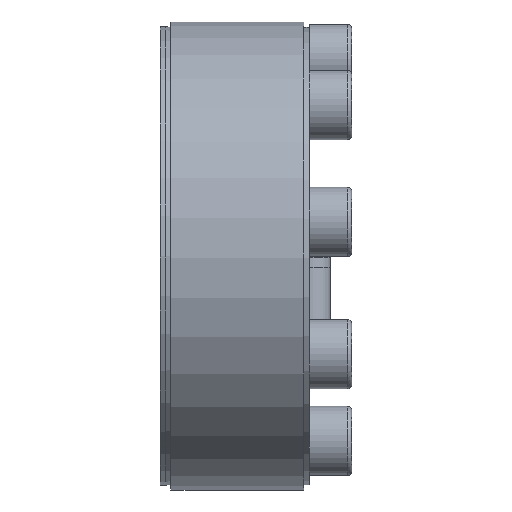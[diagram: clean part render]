
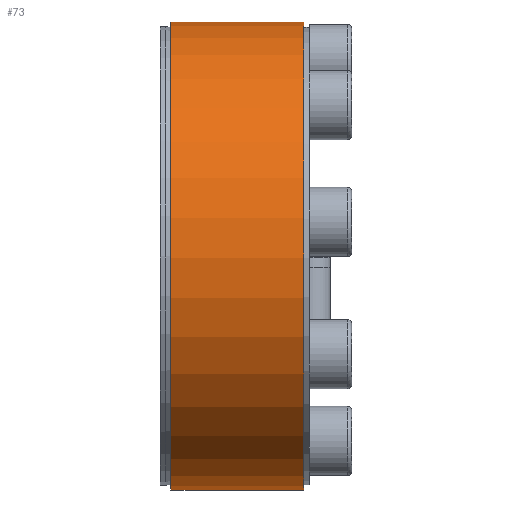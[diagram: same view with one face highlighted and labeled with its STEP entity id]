
A CAD part, left-side view. The second image highlights one B-rep face of the part: STEP entity #73.
In plain terms, the highlighted cylindrical face has radius 44 mm (diameter 88 mm), a partial arc.
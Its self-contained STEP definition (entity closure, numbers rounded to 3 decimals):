
#73 = ADVANCED_FACE( '', ( #164 ), #165, .T. );
#164 = FACE_OUTER_BOUND( '', #314, .T. );
#165 = CYLINDRICAL_SURFACE( '', #315, 44. );
#314 = EDGE_LOOP( '', ( #493, #494, #495, #496 ) );
#315 = AXIS2_PLACEMENT_3D( '', #497, #498, #499 );
#493 = ORIENTED_EDGE( '', *, *, #797, .F. );
#494 = ORIENTED_EDGE( '', *, *, #798, .T. );
#495 = ORIENTED_EDGE( '', *, *, #799, .T. );
#496 = ORIENTED_EDGE( '', *, *, #800, .F. );
#497 = CARTESIAN_POINT( '', ( 0., -60., 0. ) );
#498 = DIRECTION( '', ( 0., 1., 0. ) );
#499 = DIRECTION( '', ( 0., 0., -1. ) );
#797 = EDGE_CURVE( '', #956, #957, #958, .T. );
#798 = EDGE_CURVE( '', #956, #959, #960, .F. );
#799 = EDGE_CURVE( '', #959, #961, #962, .T. );
#800 = EDGE_CURVE( '', #957, #961, #963, .F. );
#956 = VERTEX_POINT( '', #1246 );
#957 = VERTEX_POINT( '', #1247 );
#958 = CIRCLE( '', #1248, 44. );
#959 = VERTEX_POINT( '', #1249 );
#960 = LINE( '', #1250, #1251 );
#961 = VERTEX_POINT( '', #1252 );
#962 = CIRCLE( '', #1253, 44. );
#963 = LINE( '', #1254, #1255 );
#1246 = CARTESIAN_POINT( '', ( 14.105, 1., 41.678 ) );
#1247 = CARTESIAN_POINT( '', ( 15.985, 1., 40.994 ) );
#1248 = AXIS2_PLACEMENT_3D( '', #1457, #1458, #1459 );
#1249 = CARTESIAN_POINT( '', ( 14.105, 26., 41.678 ) );
#1250 = CARTESIAN_POINT( '', ( 14.105, -60., 41.678 ) );
#1251 = VECTOR( '', #1460, 1000. );
#1252 = CARTESIAN_POINT( '', ( 15.985, 26., 40.994 ) );
#1253 = AXIS2_PLACEMENT_3D( '', #1461, #1462, #1463 );
#1254 = CARTESIAN_POINT( '', ( 15.985, -60., 40.994 ) );
#1255 = VECTOR( '', #1464, 1000. );
#1457 = CARTESIAN_POINT( '', ( 0., 1., 0. ) );
#1458 = DIRECTION( '', ( 0., -1., 0. ) );
#1459 = DIRECTION( '', ( 0., 0., -1. ) );
#1460 = DIRECTION( '', ( 0., -1., 0. ) );
#1461 = CARTESIAN_POINT( '', ( 0., 26., 0. ) );
#1462 = DIRECTION( '', ( 0., -1., 0. ) );
#1463 = DIRECTION( '', ( 0., 0., -1. ) );
#1464 = DIRECTION( '', ( 0., -1., 0. ) );
